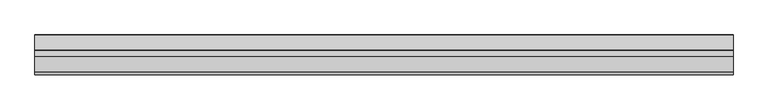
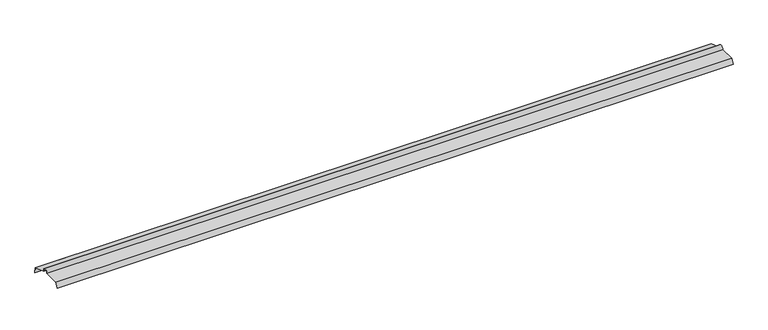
"""IFC4 building model written with IfcOpenShell, lengths in millimetres: proxy geometry, ATELIERS 3S_PARISIENNE 1000_NON VENTILATED CYLINDRICAL ROOF RIDGE : ATELIERS 3S_PARISIENNE 1000_NON VENTILATED CYLINDRICAL ROOF RIDGE."""

from ifc_helpers import new_model, si_unit, point, frame, origin, origin_2d, place, context, project, spatial, polyline, circle_curve, trimmed, segment, composite_curve, outline, extrude, source, transform, mapped, element, save


def generic_models_eb1dedad(model_context):
    return source(origin(), model_context, "Body", "SweptSolid", [
        extrude(outline(composite_curve([segment(polyline([(-154.823673, 1.0), (-24.979992, 1.0)]), True, "CONTINUOUS"), segment(trimmed(circle_curve(origin_2d(), 25.0), [point((-24.979992, 1.0))], [point((23.8155343, -7.6039678))], False, "CARTESIAN"), True, "CONTINUOUS"), segment(polyline([(23.8155343, -7.6039678), (145.8286832, -52.0131222), (149.7506916, -96.8418836), (148.7544969, -96.9290394), (144.8880128, -52.734924), (22.5526229, -8.2084834)]), True, "CONTINUOUS"), segment(trimmed(circle_curve(origin_2d(), 24.0), [point((22.5526229, -8.2084834))], [point((-24.0, 0.0))], True, "CARTESIAN"), True, "CONTINUOUS"), segment(polyline([(-24.0, 0.0), (-154.1866028, 0.0), (-172.935187, -40.2064687), (-173.8414948, -39.7838504), (-154.823673, 1.0)]), True, "CONTINUOUS")], self_intersect=False)), frame((0.0, 0.0, 0.0), z_axis=(1.0, 0.0, 0.0), x_axis=(0.0, 1.0, 0.0)), (0.0, 0.0, 1.0), 5661.0),
    ])


if __name__ == "__main__":
    model = new_model("IFC4")
    model_context = context("Model", 3, world=origin())
    ifc_project = project(units=[si_unit("LENGTHUNIT", "METRE", prefix="MILLI")], contexts=[model_context])
    site = spatial("IfcSite", under=ifc_project)
    building = spatial("IfcBuilding", under=site)
    placement = place(None, origin())
    generic_models_shape = generic_models_eb1dedad(model_context)
    element("IfcBuildingElementProxy", 1, Name="ATELIERS 3S_PARISIENNE 1000_NON VENTILATED CYLINDRICAL ROOF RIDGE : ATELIERS 3S_PARISIENNE 1000_NON VENTILATED CYLINDRICAL ROOF RIDGE", ObjectType="ATELIERS 3S_PARISIENNE 1000_NON VENTILATED CYLINDRICAL ROOF RIDGE : ATELIERS 3S_PARISIENNE 1000_NON VENTILATED CYLINDRICAL ROOF RIDGE", at=placement, inside=building, context=model_context, shape_type="MappedRepresentation", body=[
        mapped(generic_models_shape, transform((0.0, 0.0, 0.0), x_axis=(1.0, 0.0, 0.0), y_axis=(0.0, 1.0, 0.0), z_axis=(0.0, 0.0, 1.0))),
    ])
    save(model, "model.ifc")
